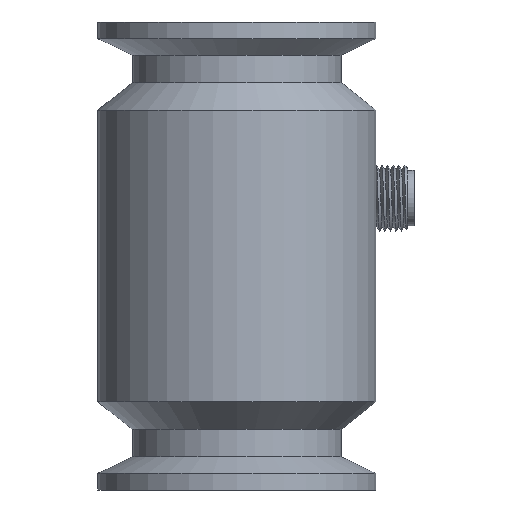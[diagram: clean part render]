
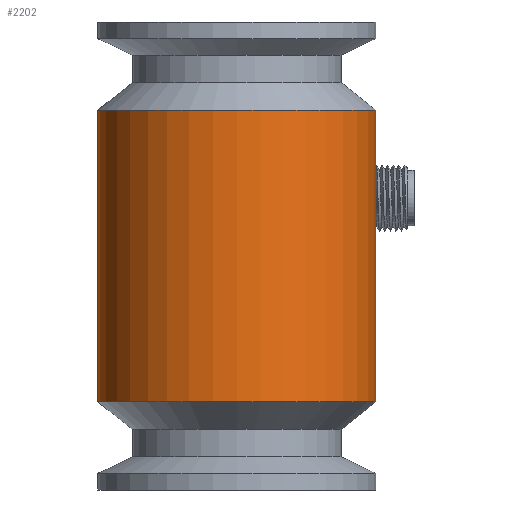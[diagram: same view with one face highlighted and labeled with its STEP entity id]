
A CAD part, front view. The second image highlights one B-rep face of the part: STEP entity #2202.
In plain terms, the highlighted cylindrical face has radius 25.25 mm (diameter 50.5 mm), a full revolution.
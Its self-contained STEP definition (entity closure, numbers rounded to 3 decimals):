
#2056=CYLINDRICAL_SURFACE('',#8512,25.25);
#2202=ADVANCED_FACE('',(#3774,#3775,#3776),#2056,.T.);
#2804=B_SPLINE_CURVE_WITH_KNOTS('',3,(#11287,#11288,#11289,#11290,#11291,
#11292,#11293,#11294,#11295,#11296,#11297,#11298,#11299,#11300,#11301,#11302,
#11303,#11304,#11305,#11306,#11307,#11308,#11309,#11310),.UNSPECIFIED.,
 .T.,.F.,(2,2,2,2,2,2,2,2,2,2,2,2,2,2),(-0.063,0.,0.125,0.25,0.375,0.438,
0.5,0.563,0.625,0.75,0.875,0.938,1.,1.125),.UNSPECIFIED.);
#3774=FACE_BOUND('',#3993,.T.);
#3775=FACE_BOUND('',#3994,.T.);
#3776=FACE_BOUND('',#3995,.T.);
#3993=EDGE_LOOP('',(#4562));
#3994=EDGE_LOOP('',(#4563));
#3995=EDGE_LOOP('',(#4564));
#4562=ORIENTED_EDGE('',*,*,#7151,.T.);
#4563=ORIENTED_EDGE('',*,*,#7152,.T.);
#4564=ORIENTED_EDGE('',*,*,#7153,.T.);
#6507=VERTEX_POINT('',#11311);
#6508=VERTEX_POINT('',#11313);
#6509=VERTEX_POINT('',#11315);
#7151=EDGE_CURVE('',#6507,#6507,#2804,.T.);
#7152=EDGE_CURVE('',#6508,#6508,#8121,.T.);
#7153=EDGE_CURVE('',#6509,#6509,#8122,.T.);
#8121=CIRCLE('',#8510,25.25);
#8122=CIRCLE('',#8511,25.25);
#8510=AXIS2_PLACEMENT_3D('',#11312,#9317,#9318);
#8511=AXIS2_PLACEMENT_3D('',#11314,#9319,#9320);
#8512=AXIS2_PLACEMENT_3D('',#11316,#9321,#9322);
#9317=DIRECTION('',(0.,0.,-1.));
#9318=DIRECTION('',(1.,0.,0.));
#9319=DIRECTION('',(0.,0.,1.));
#9320=DIRECTION('',(-1.,0.,0.));
#9321=DIRECTION('',(0.,0.,-1.));
#9322=DIRECTION('',(1.,0.,0.));
#11287=CARTESIAN_POINT('',(-1.158,25.287,18.226));
#11288=CARTESIAN_POINT('',(-6.518,24.658,16.551));
#11289=CARTESIAN_POINT('',(-9.136,23.601,13.668));
#11290=CARTESIAN_POINT('',(-12.218,22.163,7.073));
#11291=CARTESIAN_POINT('',(-12.726,21.818,3.191));
#11292=CARTESIAN_POINT('',(-11.598,22.438,-4.085));
#11293=CARTESIAN_POINT('',(-9.981,23.358,-7.58));
#11294=CARTESIAN_POINT('',(-6.015,24.562,-11.288));
#11295=CARTESIAN_POINT('',(-4.404,24.929,-12.273));
#11296=CARTESIAN_POINT('',(-0.807,25.302,-13.262));
#11297=CARTESIAN_POINT('',(1.122,25.288,-13.225));
#11298=CARTESIAN_POINT('',(4.663,24.88,-12.131));
#11299=CARTESIAN_POINT('',(6.26,24.499,-11.095));
#11300=CARTESIAN_POINT('',(8.844,23.689,-8.558));
#11301=CARTESIAN_POINT('',(9.881,23.252,-7.029));
#11302=CARTESIAN_POINT('',(12.197,22.174,-2.08));
#11303=CARTESIAN_POINT('',(12.706,21.83,1.807));
#11304=CARTESIAN_POINT('',(11.577,22.449,9.09));
#11305=CARTESIAN_POINT('',(9.957,23.368,12.588));
#11306=CARTESIAN_POINT('',(5.985,24.569,16.295));
#11307=CARTESIAN_POINT('',(4.378,24.934,17.278));
#11308=CARTESIAN_POINT('',(0.766,25.304,18.265));
#11309=CARTESIAN_POINT('',(-1.158,25.287,18.226));
#11310=CARTESIAN_POINT('',(-6.518,24.658,16.551));
#11311=CARTESIAN_POINT('',(-2.945,25.078,17.668));
#11312=CARTESIAN_POINT('',(0.,0.,18.5));
#11313=CARTESIAN_POINT('',(25.25,0.,18.5));
#11314=CARTESIAN_POINT('',(0.,0.,-34.5));
#11315=CARTESIAN_POINT('',(-25.25,0.,-34.5));
#11316=CARTESIAN_POINT('',(0.,0.,48.5));
